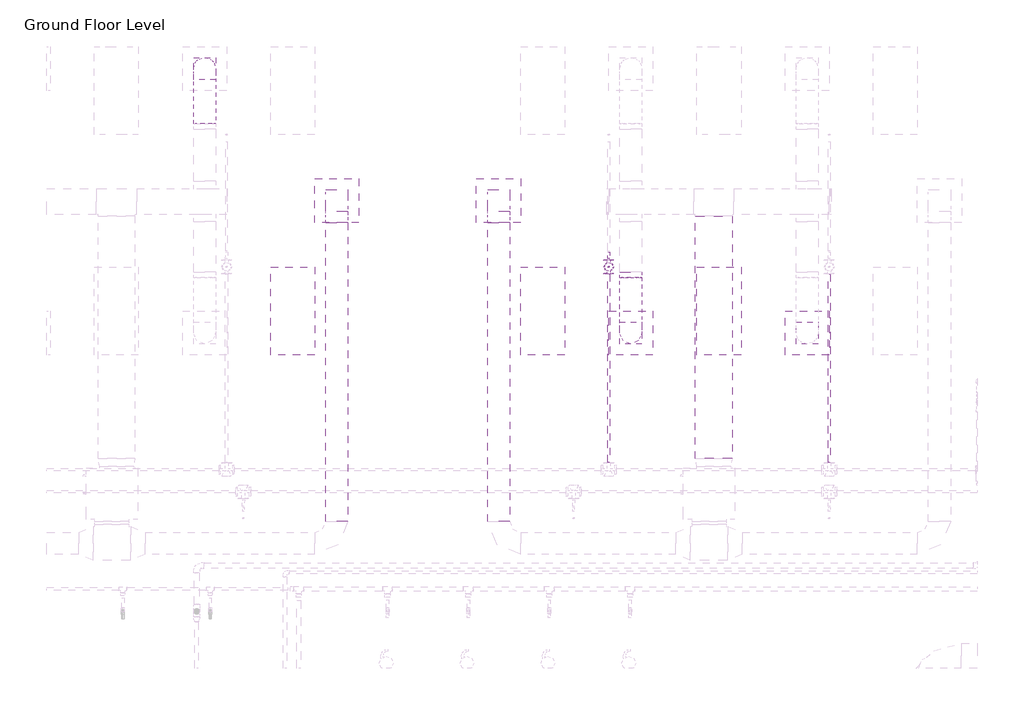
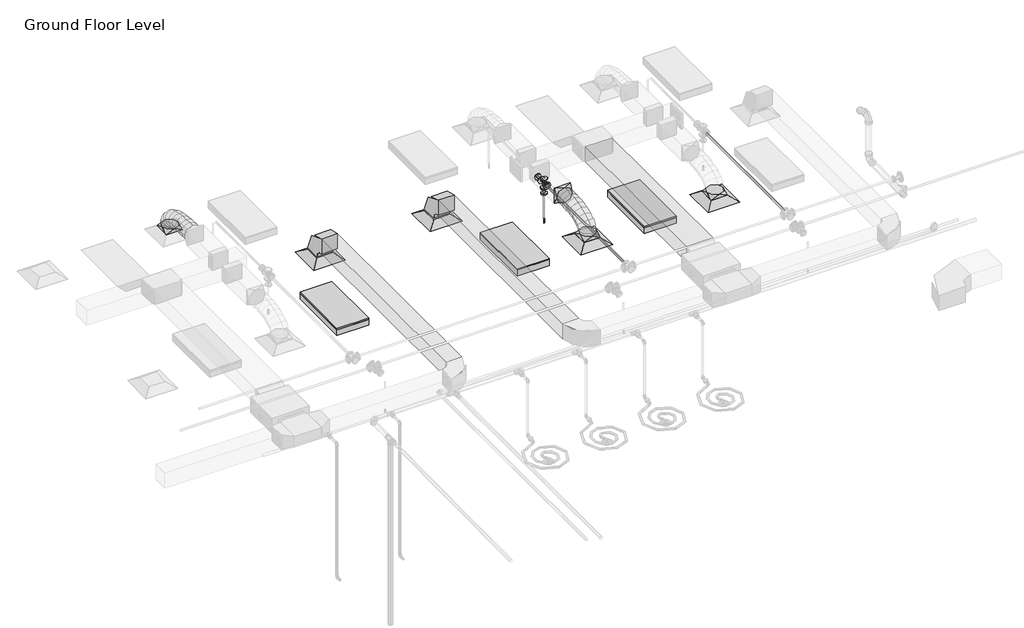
# One storey, part 54 of 68: 7 duct segments, 6 duct fittings, 4 air terminals, 3 light fixtures, 3 pipe fittings, 3 pipe segments, 1 fire suppression terminal.
"""IFC4 building model written with IfcOpenShell, lengths in millimetres."""

from ifc_helpers import new_model, si_unit, point, frame, frame_2d, origin, place, context, project, spatial, polyline, circle_curve, ellipse_curve, trimmed, segment, composite_curve, outline, extrude, transform, mapped, element, save
from ifc_brep_helpers import plane_surface, cylinder_surface, advanced_brep
from components import m_return_diffuser_600_x_600_face_300_x_300_connection_ff221211, m_rectangular_elbow_radius_1_w_618da153, m_rectangular_to_round_transition_angle_45_degree_641efff0, m_sprinkler_dry_pendent_hosted_15_mm_dry_pendent_9bda8e11, m_troffer_light_parabolic_rectangular1_0600x1200mm_4_lamp_86473d4a, m_reducer_flanged_cs_class_150_standard_d42b2106, m_tee_round_base_flanged_cs_class_150_standard_7e5987a1

model = new_model("IFC4")

# Units and contexts
model_context = context("Model", 3, world=origin())
ifc_project = project(units=[si_unit("LENGTHUNIT", "METRE", prefix="MILLI")], contexts=[model_context])

# Site, building, storey
site = spatial("IfcSite", under=ifc_project)
building = spatial("IfcBuilding", under=site)
storey = spatial("IfcBuildingStorey", under=building, Name="Ground Floor Level", Elevation=900.0)

# Air terminals
placement = place(None, origin())
m_return_diffuser_600_x_600_face_300_x_300_connection_shape = m_return_diffuser_600_x_600_face_300_x_300_connection_ff221211(model_context)
element("IfcAirTerminal", 1, ObjectType="M_Return Diffuser : 600 x 600 Face 300 x 300 Connection", at=placement, inside=storey, context=model_context, shape_type="MappedRepresentation", body=[
    mapped(m_return_diffuser_600_x_600_face_300_x_300_connection_shape, transform((-14937.2327605, 18735.2153534, 3650.0), x_axis=(1.0, 0.0, 0.0), y_axis=(0.0, 1.0, 0.0), z_axis=(0.0, 0.0, 1.0))),
])
element("IfcAirTerminal", 2, ObjectType="M_Return Diffuser : 600 x 600 Face 300 x 300 Connection", at=placement, inside=storey, context=model_context, shape_type="MappedRepresentation", body=[
    mapped(m_return_diffuser_600_x_600_face_300_x_300_connection_shape, transform((-12737.2327605, 18735.2153534, 3650.0), x_axis=(1.0, 0.0, 0.0), y_axis=(0.0, 1.0, 0.0), z_axis=(0.0, 0.0, 1.0))),
])
element("IfcAirTerminal", 3, ObjectType="M_Supply Diffuser : 600 x 600 Face 300 x 300 Connection", at=placement, inside=storey, context=model_context, shape_type="MappedRepresentation", body=[
    mapped(m_return_diffuser_600_x_600_face_300_x_300_connection_shape, transform((-10937.2327605, 16935.2153534, 3650.0), x_axis=(1.0, 0.0, 0.0), y_axis=(0.0, 1.0, 0.0), z_axis=(0.0, 0.0, 1.0))),
])
element("IfcAirTerminal", 4, ObjectType="M_Supply Diffuser : 600 x 600 Face 300 x 300 Connection", at=placement, inside=storey, context=model_context, shape_type="MappedRepresentation", body=[
    mapped(m_return_diffuser_600_x_600_face_300_x_300_connection_shape, transform((-8537.2327605, 16935.2153534, 3650.0), x_axis=(1.0, 0.0, 0.0), y_axis=(0.0, 1.0, 0.0), z_axis=(0.0, 0.0, 1.0))),
])

# Duct fittings
m_rectangular_elbow_radius_1_w_shape = m_rectangular_elbow_radius_1_w_618da153(model_context)
element("IfcDuctFitting", 5, ObjectType="M_Rectangular Elbow - Radius : 1 W", at=placement, inside=storey, context=model_context, shape_type="MappedRepresentation", body=[
    mapped(m_rectangular_elbow_radius_1_w_shape, transform((-14937.2327605, 18735.2153534, 4075.2881511), x_axis=(0.0, 0.0, 1.0), y_axis=(0.0, -1.0, 0.0), z_axis=(1.0, 0.0, 0.0))),
])
element("IfcDuctFitting", 6, ObjectType="M_Rectangular Elbow - Radius : 1 W", at=placement, inside=storey, context=model_context, shape_type="MappedRepresentation", body=[
    mapped(m_rectangular_elbow_radius_1_w_shape, transform((-12737.2327605, 18735.2153534, 4075.2872564), x_axis=(0.0, 0.0, 1.0), y_axis=(0.0, -1.0, 0.0), z_axis=(1.0, 0.0, 0.0))),
])
m_rectangular_to_round_transition_angle_45_degree_shape = m_rectangular_to_round_transition_angle_45_degree_641efff0(model_context)
element("IfcDuctFitting", 7, ObjectType="M_Rectangular to Round Transition - Angle : 45 Degree", at=placement, inside=storey, context=model_context, shape_type="MappedRepresentation", body=[
    mapped(m_rectangular_to_round_transition_angle_45_degree_shape, transform((-16737.2327605, 20535.2153534, 3751.6), x_axis=(0.0, 0.0, 1.0), y_axis=(-1.0, 0.0, 0.0), z_axis=(0.0, -1.0, 0.0))),
])
element("IfcDuctFitting", 8, ObjectType="M_Rectangular to Round Transition - Angle : 45 Degree", at=placement, inside=storey, context=model_context, shape_type="MappedRepresentation", body=[
    mapped(m_rectangular_to_round_transition_angle_45_degree_shape, transform((-10937.2327605, 16935.2153534, 3751.6), x_axis=(0.0, 0.0, 1.0), y_axis=(-1.0, 0.0, 0.0), z_axis=(0.0, -1.0, 0.0))),
])
element("IfcDuctFitting", 9, ObjectType="M_Rectangular to Round Transition - Angle : 45 Degree", at=placement, inside=storey, context=model_context, shape_type="MappedRepresentation", body=[
    mapped(m_rectangular_to_round_transition_angle_45_degree_shape, transform((-10937.2327605, 17762.5527048, 4099.9985799), x_axis=(0.0, -1.0, 0.0), y_axis=(1.0, 0.0, 0.0), z_axis=(0.0, 0.0, 1.0))),
])
element("IfcDuctFitting", 10, ObjectType="M_Rectangular to Round Transition - Angle : 45 Degree", at=placement, inside=storey, context=model_context, shape_type="MappedRepresentation", body=[
    mapped(m_rectangular_to_round_transition_angle_45_degree_shape, transform((-8537.2327605, 16935.2153534, 3751.6), x_axis=(0.0, 0.0, 1.0), y_axis=(-1.0, 0.0, 0.0), z_axis=(0.0, -1.0, 0.0))),
])

# Duct segments
element("IfcDuctSegment", 11, ObjectType="Flex - Round", at=placement, inside=storey, context=model_context, shape_type="AdvancedBrep", body=[
    advanced_brep(
    [(-16587.2327605, 20535.2153534, 3826.6), (-16737.2327605, 20385.2153534, 3826.6), (-16887.2327605, 20535.2153534, 3826.6), (-16737.2327605, 20685.2153534, 3826.6), (-16587.2327605, 20535.2153534, 3857.9377382), (-16737.2327605, 20385.2153534, 3832.2944832), (-16887.2327605, 20535.2153534, 3857.9377382), (-16737.2327605, 20685.2153534, 3883.5809933), (-16587.2327605, 20518.1994031, 3906.2505845), (-16737.2327605, 20384.4614644, 3834.4349763), (-16887.2327605, 20518.1994031, 3906.2505845), (-16737.2327605, 20651.9373419, 3978.0661927), (-16587.2327605, 20471.0154746, 3968.7112839), (-16737.2327605, 20366.8096846, 3857.8018842), (-16887.2327605, 20471.0154746, 3968.7112839), (-16737.2327605, 20575.2212646, 4079.6206836), (-16587.2327605, 20399.4594512, 4016.069955), (-16737.2327605, 20330.5255676, 3881.8161806), (-16887.2327605, 20399.4594512, 4016.069955), (-16737.2327605, 20468.3933347, 4150.3237294), (-16587.2327605, 20309.3272161, 4050.4144545), (-16737.2327605, 20265.7666411, 3906.4922903), (-16887.2327605, 20309.3272161, 4050.4144545), (-16737.2327605, 20352.8877912, 4194.3366186), (-16587.2327605, 20206.4146528, 4073.832639), (-16737.2327605, 20179.8539072, 3926.0420925), (-16887.2327605, 20206.4146528, 4073.832639), (-16737.2327605, 20232.9753985, 4221.6231855), (-16587.2327605, 20096.5176446, 4088.4123653), (-16737.2327605, 20081.3668973, 3939.1080865), (-16887.2327605, 20096.5176446, 4088.4123653), (-16737.2327605, 20111.668392, 4237.7166441), (-16587.2327605, 19985.4320749, 4096.2414901), (-16737.2327605, 19977.9268673, 3946.3983665), (-16887.2327605, 19985.4320749, 4096.2414901), (-16737.2327605, 19992.9372825, 4246.0846137), (-16587.2327605, 19878.9538269, 4099.4078701), (-16737.2327605, 19876.2624046, 3949.4215972), (-16887.2327605, 19878.9538269, 4099.4078701), (-16737.2327605, 19881.6452491, 4249.3941429), (-16587.2327605, 19782.878784, 4099.9993619), (-16737.2327605, 19783.8022506, 4249.9965192), (-16887.2327605, 19782.878784, 4099.9993619), (-16737.2327605, 19781.9553174, 3950.0022045)],
    [
        (0, 1, circle_curve(frame((-16737.2327605, 20535.2153534, 3826.6), z_axis=(0.0, 0.0, -1.0), x_axis=(1.0, 0.0, 0.0)), 150.0)),
        (1, 2, circle_curve(frame((-16737.2327605, 20535.2153534, 3826.6), z_axis=(0.0, 0.0, -1.0), x_axis=(1.0, 0.0, 0.0)), 150.0)),
        (2, 3, circle_curve(frame((-16737.2327605, 20535.2153534, 3826.6), z_axis=(0.0, 0.0, -1.0), x_axis=(1.0, 0.0, 0.0)), 150.0)),
        (3, 0, circle_curve(frame((-16737.2327605, 20535.2153534, 3826.6), z_axis=(0.0, 0.0, -1.0), x_axis=(1.0, 0.0, 0.0)), 150.0)),
        (0, 4),
        (4, 5, ellipse_curve(frame((-16737.2327605, 20535.2153534, 3857.9377382), z_axis=(0.0, 0.16851035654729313, -0.9856998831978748), x_axis=(0.0, -0.9856998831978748, -0.16851035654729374)), 152.1761365, 150.0)),
        (5, 1),
        (5, 6, ellipse_curve(frame((-16737.2327605, 20535.2153534, 3857.9377382), z_axis=(0.0, 0.16851035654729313, -0.9856998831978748), x_axis=(0.0, -0.9856998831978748, -0.16851035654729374)), 152.1761365, 150.0)),
        (6, 2),
        (6, 7, ellipse_curve(frame((-16737.2327605, 20535.2153534, 3857.9377382), z_axis=(0.0, 0.16851035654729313, -0.9856998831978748), x_axis=(0.0, -0.9856998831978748, -0.16851035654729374)), 152.1761365, 150.0)),
        (7, 3),
        (7, 4, ellipse_curve(frame((-16737.2327605, 20535.2153534, 3857.9377382), z_axis=(0.0, 0.16851035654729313, -0.9856998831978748), x_axis=(0.0, -0.9856998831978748, -0.16851035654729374)), 152.1761365, 150.0)),
        (4, 8),
        (8, 9, ellipse_curve(frame((-16737.2327605, 20518.1994031, 3906.2505845), z_axis=(0.0, 0.47309279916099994, -0.8810126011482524), x_axis=(0.0, -0.8810126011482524, -0.4730927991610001)), 151.8002564, 150.0)),
        (9, 5),
        (9, 10, ellipse_curve(frame((-16737.2327605, 20518.1994031, 3906.2505845), z_axis=(0.0, 0.47309279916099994, -0.8810126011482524), x_axis=(0.0, -0.8810126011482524, -0.4730927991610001)), 151.8002564, 150.0)),
        (10, 6),
        (10, 11, ellipse_curve(frame((-16737.2327605, 20518.1994031, 3906.2505845), z_axis=(0.0, 0.47309279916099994, -0.8810126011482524), x_axis=(0.0, -0.8810126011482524, -0.4730927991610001)), 151.8002564, 150.0)),
        (11, 7),
        (11, 8, ellipse_curve(frame((-16737.2327605, 20518.1994031, 3906.2505845), z_axis=(0.0, 0.47309279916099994, -0.8810126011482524), x_axis=(0.0, -0.8810126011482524, -0.4730927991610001)), 151.8002564, 150.0)),
        (8, 12),
        (12, 13, ellipse_curve(frame((-16737.2327605, 20471.0154746, 3968.7112839), z_axis=(0.0, 0.7287884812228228, -0.6847388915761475), x_axis=(0.0, -0.6847388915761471, -0.7287884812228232)), 152.1832501, 150.0)),
        (13, 9),
        (13, 14, ellipse_curve(frame((-16737.2327605, 20471.0154746, 3968.7112839), z_axis=(0.0, 0.7287884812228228, -0.6847388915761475), x_axis=(0.0, -0.6847388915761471, -0.7287884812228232)), 152.1832501, 150.0)),
        (14, 10),
        (14, 15, ellipse_curve(frame((-16737.2327605, 20471.0154746, 3968.7112839), z_axis=(0.0, 0.7287884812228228, -0.6847388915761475), x_axis=(0.0, -0.6847388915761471, -0.7287884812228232)), 152.1832501, 150.0)),
        (15, 11),
        (15, 12, ellipse_curve(frame((-16737.2327605, 20471.0154746, 3968.7112839), z_axis=(0.0, 0.7287884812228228, -0.6847388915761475), x_axis=(0.0, -0.6847388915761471, -0.7287884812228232)), 152.1832501, 150.0)),
        (12, 16),
        (16, 17, ellipse_curve(frame((-16737.2327605, 20399.4594512, 4016.069955), z_axis=(0.0, 0.8895865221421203, -0.4567667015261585), x_axis=(0.0, -0.45676670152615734, -0.8895865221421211)), 150.9170508, 150.0)),
        (17, 13),
        (17, 18, ellipse_curve(frame((-16737.2327605, 20399.4594512, 4016.069955), z_axis=(0.0, 0.8895865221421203, -0.4567667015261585), x_axis=(0.0, -0.45676670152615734, -0.8895865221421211)), 150.9170508, 150.0)),
        (18, 14),
        (18, 19, ellipse_curve(frame((-16737.2327605, 20399.4594512, 4016.069955), z_axis=(0.0, 0.8895865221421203, -0.4567667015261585), x_axis=(0.0, -0.45676670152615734, -0.8895865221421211)), 150.9170508, 150.0)),
        (19, 15),
        (19, 16, ellipse_curve(frame((-16737.2327605, 20399.4594512, 4016.069955), z_axis=(0.0, 0.8895865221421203, -0.4567667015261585), x_axis=(0.0, -0.45676670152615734, -0.8895865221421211)), 150.9170508, 150.0)),
        (16, 20),
        (20, 21, ellipse_curve(frame((-16737.2327605, 20309.3272161, 4050.4144545), z_axis=(0.0, 0.9571207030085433, -0.28968941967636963), x_axis=(0.0, -0.2896894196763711, -0.9571207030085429)), 150.3699206, 150.0)),
        (21, 17),
        (21, 22, ellipse_curve(frame((-16737.2327605, 20309.3272161, 4050.4144545), z_axis=(0.0, 0.9571207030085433, -0.28968941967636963), x_axis=(0.0, -0.2896894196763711, -0.9571207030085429)), 150.3699206, 150.0)),
        (22, 18),
        (22, 23, ellipse_curve(frame((-16737.2327605, 20309.3272161, 4050.4144545), z_axis=(0.0, 0.9571207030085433, -0.28968941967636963), x_axis=(0.0, -0.2896894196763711, -0.9571207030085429)), 150.3699206, 150.0)),
        (23, 19),
        (23, 20, ellipse_curve(frame((-16737.2327605, 20309.3272161, 4050.4144545), z_axis=(0.0, 0.9571207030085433, -0.28968941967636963), x_axis=(0.0, -0.2896894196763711, -0.9571207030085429)), 150.3699206, 150.0)),
        (20, 24),
        (24, 25, ellipse_curve(frame((-16737.2327605, 20206.4146528, 4073.832639), z_axis=(0.0, 0.9842315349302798, -0.17688495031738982), x_axis=(0.0, -0.1768849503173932, -0.9842315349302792)), 150.1583126, 150.0)),
        (25, 21),
        (25, 26, ellipse_curve(frame((-16737.2327605, 20206.4146528, 4073.832639), z_axis=(0.0, 0.9842315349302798, -0.17688495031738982), x_axis=(0.0, -0.1768849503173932, -0.9842315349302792)), 150.1583126, 150.0)),
        (26, 22),
        (26, 27, ellipse_curve(frame((-16737.2327605, 20206.4146528, 4073.832639), z_axis=(0.0, 0.9842315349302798, -0.17688495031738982), x_axis=(0.0, -0.1768849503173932, -0.9842315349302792)), 150.1583126, 150.0)),
        (27, 23),
        (27, 24, ellipse_curve(frame((-16737.2327605, 20206.4146528, 4073.832639), z_axis=(0.0, 0.9842315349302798, -0.17688495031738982), x_axis=(0.0, -0.1768849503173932, -0.9842315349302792)), 150.1583126, 150.0)),
        (24, 28),
        (28, 29, ellipse_curve(frame((-16737.2327605, 20096.5176446, 4088.4123653), z_axis=(0.0, 0.9948907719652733, -0.10095717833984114), x_axis=(0.0, -0.10095717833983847, -0.9948907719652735)), 150.0710259, 150.0)),
        (29, 25),
        (29, 30, ellipse_curve(frame((-16737.2327605, 20096.5176446, 4088.4123653), z_axis=(0.0, 0.9948907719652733, -0.10095717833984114), x_axis=(0.0, -0.10095717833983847, -0.9948907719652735)), 150.0710259, 150.0)),
        (30, 26),
        (30, 31, ellipse_curve(frame((-16737.2327605, 20096.5176446, 4088.4123653), z_axis=(0.0, 0.9948907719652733, -0.10095717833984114), x_axis=(0.0, -0.10095717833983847, -0.9948907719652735)), 150.0710259, 150.0)),
        (31, 27),
        (31, 28, ellipse_curve(frame((-16737.2327605, 20096.5176446, 4088.4123653), z_axis=(0.0, 0.9948907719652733, -0.10095717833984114), x_axis=(0.0, -0.10095717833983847, -0.9948907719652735)), 150.0710259, 150.0)),
        (28, 32),
        (32, 33, ellipse_curve(frame((-16737.2327605, 19985.4320749, 4096.2414901), z_axis=(0.0, 0.9987479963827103, -0.050024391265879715), x_axis=(0.0, -0.05002439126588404, -0.9987479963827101)), 150.0309629, 150.0)),
        (33, 29),
        (33, 34, ellipse_curve(frame((-16737.2327605, 19985.4320749, 4096.2414901), z_axis=(0.0, 0.9987479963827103, -0.050024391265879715), x_axis=(0.0, -0.05002439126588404, -0.9987479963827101)), 150.0309629, 150.0)),
        (34, 30),
        (34, 35, ellipse_curve(frame((-16737.2327605, 19985.4320749, 4096.2414901), z_axis=(0.0, 0.9987479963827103, -0.050024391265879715), x_axis=(0.0, -0.05002439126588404, -0.9987479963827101)), 150.0309629, 150.0)),
        (35, 31),
        (35, 32, ellipse_curve(frame((-16737.2327605, 19985.4320749, 4096.2414901), z_axis=(0.0, 0.9987479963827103, -0.050024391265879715), x_axis=(0.0, -0.05002439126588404, -0.9987479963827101)), 150.0309629, 150.0)),
        (32, 36),
        (36, 37, ellipse_curve(frame((-16737.2327605, 19878.9538269, 4099.4078701), z_axis=(0.0, 0.9998390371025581, -0.01794156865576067), x_axis=(0.0, -0.017941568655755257, -0.9998390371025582)), 150.0104189, 150.0)),
        (37, 33),
        (37, 38, ellipse_curve(frame((-16737.2327605, 19878.9538269, 4099.4078701), z_axis=(0.0, 0.9998390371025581, -0.01794156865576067), x_axis=(0.0, -0.017941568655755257, -0.9998390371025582)), 150.0104189, 150.0)),
        (38, 34),
        (38, 39, ellipse_curve(frame((-16737.2327605, 19878.9538269, 4099.4078701), z_axis=(0.0, 0.9998390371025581, -0.01794156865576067), x_axis=(0.0, -0.017941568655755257, -0.9998390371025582)), 150.0104189, 150.0)),
        (39, 35),
        (39, 36, ellipse_curve(frame((-16737.2327605, 19878.9538269, 4099.4078701), z_axis=(0.0, 0.9998390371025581, -0.01794156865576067), x_axis=(0.0, -0.017941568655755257, -0.9998390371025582)), 150.0104189, 150.0)),
        (40, 41, circle_curve(frame((-16737.2327605, 19782.878784, 4099.9993619), z_axis=(0.0, -0.9999810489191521, 0.0061564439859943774), x_axis=(1.0, 0.0, 0.0)), 150.0)),
        (41, 42, circle_curve(frame((-16737.2327605, 19782.878784, 4099.9993619), z_axis=(0.0, -0.9999810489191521, 0.0061564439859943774), x_axis=(1.0, 0.0, 0.0)), 150.0)),
        (42, 43, circle_curve(frame((-16737.2327605, 19782.878784, 4099.9993619), z_axis=(0.0, -0.9999810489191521, 0.0061564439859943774), x_axis=(1.0, 0.0, 0.0)), 150.0)),
        (43, 40, circle_curve(frame((-16737.2327605, 19782.878784, 4099.9993619), z_axis=(0.0, -0.9999810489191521, 0.0061564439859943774), x_axis=(1.0, 0.0, 0.0)), 150.0)),
        (36, 40),
        (43, 37),
        (42, 38),
        (41, 39),
    ],
    [
        plane_surface(frame((-16737.2327605, 20385.2153534, 3826.6), z_axis=(0.0, 0.0, -1.0), x_axis=(1.0, 0.0, 0.0))),
        cylinder_surface(frame((-16737.2327605, 20535.2153534, 3826.6), z_axis=(0.0, 0.0, -1.0), x_axis=(1.0, 0.0, 0.0)), 150.0),
        cylinder_surface(frame((-16737.2327605, 20535.2153534, 3857.9377382), z_axis=(0.0, 0.33220127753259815, -0.9432085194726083), x_axis=(1.0, 0.0, 0.0)), 150.0),
        cylinder_surface(frame((-16737.2327605, 20518.1994031, 3906.2505845), z_axis=(0.0, 0.6027631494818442, -0.79792016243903), x_axis=(1.0, 0.0, 0.0)), 150.0),
        cylinder_surface(frame((-16737.2327605, 20471.0154746, 3968.7112839), z_axis=(0.0, 0.833903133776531, -0.5519108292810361), x_axis=(1.0, 0.0, 0.0)), 150.0),
        cylinder_surface(frame((-16737.2327605, 20399.4594512, 4016.069955), z_axis=(0.0, 0.9344587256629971, -0.3560714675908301), x_axis=(1.0, 0.0, 0.0)), 150.0),
        cylinder_surface(frame((-16737.2327605, 20309.3272161, 4050.4144545), z_axis=(0.0, 0.9750735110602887, -0.22188205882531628), x_axis=(1.0, 0.0, 0.0)), 150.0),
        cylinder_surface(frame((-16737.2327605, 20206.4146528, 4073.832639), z_axis=(0.0, 0.9913141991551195, -0.13151486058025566), x_axis=(1.0, 0.0, 0.0)), 150.0),
        cylinder_surface(frame((-16737.2327605, 20096.5176446, 4088.4123653), z_axis=(0.0, 0.997525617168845, -0.07030393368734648), x_axis=(1.0, 0.0, 0.0)), 150.0),
        cylinder_surface(frame((-16737.2327605, 19985.4320749, 4096.2414901), z_axis=(0.0, 0.9995581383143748, -0.029724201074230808), x_axis=(1.0, 0.0, 0.0)), 150.0),
        plane_surface(frame((-16737.2327605, 19781.9553174, 3950.0022045), z_axis=(0.0, -0.999981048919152, 0.0061564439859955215), x_axis=(1.0, 0.0, 0.0))),
        cylinder_surface(frame((-16737.2327605, 19878.9538269, 4099.4078701), z_axis=(0.0, 0.9999810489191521, -0.0061564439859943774), x_axis=(1.0, 0.0, 0.0)), 150.0),
    ],
    [
        (0, [[1, 2, 3, 4]]),
        (1, [[-1, 5, 6, 7]]),
        (1, [[-2, -7, 8, 9]]),
        (1, [[-3, -9, 10, 11]]),
        (1, [[-4, -11, 12, -5]]),
        (2, [[-6, 13, 14, 15]]),
        (2, [[-8, -15, 16, 17]]),
        (2, [[-10, -17, 18, 19]]),
        (2, [[-12, -19, 20, -13]]),
        (3, [[-14, 21, 22, 23]]),
        (3, [[-16, -23, 24, 25]]),
        (3, [[-18, -25, 26, 27]]),
        (3, [[-20, -27, 28, -21]]),
        (4, [[-22, 29, 30, 31]]),
        (4, [[-24, -31, 32, 33]]),
        (4, [[-26, -33, 34, 35]]),
        (4, [[-28, -35, 36, -29]]),
        (5, [[-30, 37, 38, 39]]),
        (5, [[-32, -39, 40, 41]]),
        (5, [[-34, -41, 42, 43]]),
        (5, [[-36, -43, 44, -37]]),
        (6, [[-38, 45, 46, 47]]),
        (6, [[-40, -47, 48, 49]]),
        (6, [[-42, -49, 50, 51]]),
        (6, [[-44, -51, 52, -45]]),
        (7, [[-46, 53, 54, 55]]),
        (7, [[-48, -55, 56, 57]]),
        (7, [[-50, -57, 58, 59]]),
        (7, [[-52, -59, 60, -53]]),
        (8, [[-54, 61, 62, 63]]),
        (8, [[-56, -63, 64, 65]]),
        (8, [[-58, -65, 66, 67]]),
        (8, [[-60, -67, 68, -61]]),
        (9, [[-62, 69, 70, 71]]),
        (9, [[-64, -71, 72, 73]]),
        (9, [[-66, -73, 74, 75]]),
        (9, [[-68, -75, 76, -69]]),
        (10, [[77, 78, 79, 80]]),
        (11, [[-70, 81, -80, 82]]),
        (11, [[-72, -82, -79, 83]]),
        (11, [[-74, -83, -78, 84]]),
        (11, [[-76, -84, -77, -81]]),
    ],
),
])
element("IfcDuctSegment", 12, ObjectType="Flex - Round", at=placement, inside=storey, context=model_context, shape_type="AdvancedBrep", body=[
    advanced_brep(
    [(-10787.2327605, 16935.2153534, 3826.6), (-10937.2327605, 16785.2153534, 3826.6), (-11087.2327605, 16935.2153534, 3826.6), (-10937.2327605, 17085.2153534, 3826.6), (-10787.2327605, 16935.2153534, 3857.9377711), (-10937.2327605, 16785.2153534, 3883.5810662), (-11087.2327605, 16935.2153534, 3857.9377711), (-10937.2327605, 17085.2153534, 3832.2944759), (-10787.2327605, 16952.2313253, 3906.2505987), (-10937.2327605, 16818.4934358, 3978.0663103), (-11087.2327605, 16952.2313253, 3906.2505987), (-10937.2327605, 17085.9692148, 3834.4348871), (-10787.2327605, 16999.4153129, 3968.7112481), (-10937.2327605, 16895.2096567, 4079.620783), (-11087.2327605, 16999.4153129, 3968.7112481), (-10937.2327605, 17103.620969, 3857.8017132), (-10787.2327605, 17070.9714237, 4016.0698216), (-10937.2327605, 17002.0377511, 4150.3237055), (-11087.2327605, 17070.9714237, 4016.0698216), (-10937.2327605, 17139.9050963, 3881.8159377), (-10787.2327605, 17161.1037654, 4050.4141926), (-10937.2327605, 17117.5434209, 4194.3364261), (-11087.2327605, 17161.1037654, 4050.4141926), (-10937.2327605, 17204.6641099, 3906.491959), (-10787.2327605, 17264.0164456, 4073.8322345), (-10937.2327605, 17237.4559185, 4221.6228196), (-11087.2327605, 17264.0164456, 4073.8322345), (-10937.2327605, 17290.5769728, 3926.0416493), (-10787.2327605, 17373.9135721, 4088.4118207), (-10937.2327605, 17358.7630147, 4237.7161183), (-11087.2327605, 17373.9135721, 4088.4118207), (-10937.2327605, 17389.0641294, 3939.1075232), (-10787.2327605, 17484.9992523, 4096.2408248), (-10937.2327605, 17477.4941925, 4246.0839553), (-11087.2327605, 17484.9992523, 4096.2408248), (-10937.2327605, 17492.5043121, 3946.3976942), (-10787.2327605, 17591.477594, 4099.40712), (-10937.2327605, 17588.7862586, 4249.393394), (-11087.2327605, 17591.477594, 4099.40712), (-10937.2327605, 17594.1689294, 3949.4208461), (-10787.2327605, 17687.5527048, 4099.9985799), (-10937.2327605, 17688.4761208, 3950.0014223), (-11087.2327605, 17687.5527048, 4099.9985799), (-10937.2327605, 17686.6292887, 4249.9957376)],
    [
        (0, 1, circle_curve(frame((-10937.2327605, 16935.2153534, 3826.6), z_axis=(0.0, 0.0, -1.0), x_axis=(1.0, 0.0, 0.0)), 150.0)),
        (1, 2, circle_curve(frame((-10937.2327605, 16935.2153534, 3826.6), z_axis=(0.0, 0.0, -1.0), x_axis=(1.0, 0.0, 0.0)), 150.0)),
        (2, 3, circle_curve(frame((-10937.2327605, 16935.2153534, 3826.6), z_axis=(0.0, 0.0, -1.0), x_axis=(1.0, 0.0, 0.0)), 150.0)),
        (3, 0, circle_curve(frame((-10937.2327605, 16935.2153534, 3826.6), z_axis=(0.0, 0.0, -1.0), x_axis=(1.0, 0.0, 0.0)), 150.0)),
        (0, 4),
        (4, 5, ellipse_curve(frame((-10937.2327605, 16935.2153534, 3857.9377711), z_axis=(0.0, -0.1685106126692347, -0.9856998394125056), x_axis=(0.0, 0.9856998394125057, -0.16851061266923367)), 152.1761433, 150.0)),
        (5, 1),
        (5, 6, ellipse_curve(frame((-10937.2327605, 16935.2153534, 3857.9377711), z_axis=(0.0, -0.1685106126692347, -0.9856998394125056), x_axis=(0.0, 0.9856998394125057, -0.16851061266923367)), 152.1761433, 150.0)),
        (6, 2),
        (6, 7, ellipse_curve(frame((-10937.2327605, 16935.2153534, 3857.9377711), z_axis=(0.0, -0.1685106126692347, -0.9856998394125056), x_axis=(0.0, 0.9856998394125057, -0.16851061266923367)), 152.1761433, 150.0)),
        (7, 3),
        (7, 4, ellipse_curve(frame((-10937.2327605, 16935.2153534, 3857.9377711), z_axis=(0.0, -0.1685106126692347, -0.9856998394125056), x_axis=(0.0, 0.9856998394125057, -0.16851061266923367)), 152.1761433, 150.0)),
        (4, 8),
        (8, 9, ellipse_curve(frame((-10937.2327605, 16952.2313253, 3906.2505987), z_axis=(0.0, -0.4730934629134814, -0.8810122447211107), x_axis=(0.0, 0.8810122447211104, -0.473093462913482)), 151.8002619, 150.0)),
        (9, 5),
        (9, 10, ellipse_curve(frame((-10937.2327605, 16952.2313253, 3906.2505987), z_axis=(0.0, -0.4730934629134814, -0.8810122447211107), x_axis=(0.0, 0.8810122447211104, -0.473093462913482)), 151.8002619, 150.0)),
        (10, 6),
        (10, 11, ellipse_curve(frame((-10937.2327605, 16952.2313253, 3906.2505987), z_axis=(0.0, -0.4730934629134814, -0.8810122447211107), x_axis=(0.0, 0.8810122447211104, -0.473093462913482)), 151.8002619, 150.0)),
        (11, 7),
        (11, 8, ellipse_curve(frame((-10937.2327605, 16952.2313253, 3906.2505987), z_axis=(0.0, -0.4730934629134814, -0.8810122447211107), x_axis=(0.0, 0.8810122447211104, -0.473093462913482)), 151.8002619, 150.0)),
        (8, 12),
        (12, 13, ellipse_curve(frame((-10937.2327605, 16999.4153129, 3968.7112481), z_axis=(0.0, -0.728789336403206, -0.6847379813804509), x_axis=(0.0, 0.6847379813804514, -0.7287893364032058)), 152.183257, 150.0)),
        (13, 9),
        (13, 14, ellipse_curve(frame((-10937.2327605, 16999.4153129, 3968.7112481), z_axis=(0.0, -0.728789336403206, -0.6847379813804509), x_axis=(0.0, 0.6847379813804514, -0.7287893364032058)), 152.183257, 150.0)),
        (14, 10),
        (14, 15, ellipse_curve(frame((-10937.2327605, 16999.4153129, 3968.7112481), z_axis=(0.0, -0.728789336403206, -0.6847379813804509), x_axis=(0.0, 0.6847379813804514, -0.7287893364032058)), 152.183257, 150.0)),
        (15, 11),
        (15, 12, ellipse_curve(frame((-10937.2327605, 16999.4153129, 3968.7112481), z_axis=(0.0, -0.728789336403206, -0.6847379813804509), x_axis=(0.0, 0.6847379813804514, -0.7287893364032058)), 152.183257, 150.0)),
        (12, 16),
        (16, 17, ellipse_curve(frame((-10937.2327605, 17070.9714237, 4016.0698216), z_axis=(0.0, -0.8895872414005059, -0.45676530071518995), x_axis=(0.0, 0.4567653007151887, -0.8895872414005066)), 150.9170519, 150.0)),
        (17, 13),
        (17, 18, ellipse_curve(frame((-10937.2327605, 17070.9714237, 4016.0698216), z_axis=(0.0, -0.8895872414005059, -0.45676530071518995), x_axis=(0.0, 0.4567653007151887, -0.8895872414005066)), 150.9170519, 150.0)),
        (18, 14),
        (18, 19, ellipse_curve(frame((-10937.2327605, 17070.9714237, 4016.0698216), z_axis=(0.0, -0.8895872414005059, -0.45676530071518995), x_axis=(0.0, 0.4567653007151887, -0.8895872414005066)), 150.9170519, 150.0)),
        (19, 15),
        (19, 16, ellipse_curve(frame((-10937.2327605, 17070.9714237, 4016.0698216), z_axis=(0.0, -0.8895872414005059, -0.45676530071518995), x_axis=(0.0, 0.4567653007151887, -0.8895872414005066)), 150.9170519, 150.0)),
        (16, 20),
        (20, 21, ellipse_curve(frame((-10937.2327605, 17161.1037654, 4050.4141926), z_axis=(0.0, -0.9571211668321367, -0.28968788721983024), x_axis=(0.0, 0.2896878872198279, -0.9571211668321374)), 150.3699202, 150.0)),
        (21, 17),
        (21, 22, ellipse_curve(frame((-10937.2327605, 17161.1037654, 4050.4141926), z_axis=(0.0, -0.9571211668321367, -0.28968788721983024), x_axis=(0.0, 0.2896878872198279, -0.9571211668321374)), 150.3699202, 150.0)),
        (22, 18),
        (22, 23, ellipse_curve(frame((-10937.2327605, 17161.1037654, 4050.4141926), z_axis=(0.0, -0.9571211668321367, -0.28968788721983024), x_axis=(0.0, 0.2896878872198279, -0.9571211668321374)), 150.3699202, 150.0)),
        (23, 19),
        (23, 20, ellipse_curve(frame((-10937.2327605, 17161.1037654, 4050.4141926), z_axis=(0.0, -0.9571211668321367, -0.28968788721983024), x_axis=(0.0, 0.2896878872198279, -0.9571211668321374)), 150.3699202, 150.0)),
        (20, 24),
        (24, 25, ellipse_curve(frame((-10937.2327605, 17264.0164456, 4073.8322345), z_axis=(0.0, -0.9842317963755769, -0.17688349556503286), x_axis=(0.0, 0.17688349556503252, -0.9842317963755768)), 150.158312, 150.0)),
        (25, 21),
        (25, 26, ellipse_curve(frame((-10937.2327605, 17264.0164456, 4073.8322345), z_axis=(0.0, -0.9842317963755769, -0.17688349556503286), x_axis=(0.0, 0.17688349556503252, -0.9842317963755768)), 150.158312, 150.0)),
        (26, 22),
        (26, 27, ellipse_curve(frame((-10937.2327605, 17264.0164456, 4073.8322345), z_axis=(0.0, -0.9842317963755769, -0.17688349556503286), x_axis=(0.0, 0.17688349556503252, -0.9842317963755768)), 150.158312, 150.0)),
        (27, 23),
        (27, 24, ellipse_curve(frame((-10937.2327605, 17264.0164456, 4073.8322345), z_axis=(0.0, -0.9842317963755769, -0.17688349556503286), x_axis=(0.0, 0.17688349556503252, -0.9842317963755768)), 150.158312, 150.0)),
        (24, 28),
        (28, 29, ellipse_curve(frame((-10937.2327605, 17373.9135721, 4088.4118207), z_axis=(0.0, -0.9948909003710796, -0.10095591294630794), x_axis=(0.0, 0.10095591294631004, -0.9948909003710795)), 150.0710253, 150.0)),
        (29, 25),
        (29, 30, ellipse_curve(frame((-10937.2327605, 17373.9135721, 4088.4118207), z_axis=(0.0, -0.9948909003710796, -0.10095591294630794), x_axis=(0.0, 0.10095591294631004, -0.9948909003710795)), 150.0710253, 150.0)),
        (30, 26),
        (30, 31, ellipse_curve(frame((-10937.2327605, 17373.9135721, 4088.4118207), z_axis=(0.0, -0.9948909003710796, -0.10095591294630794), x_axis=(0.0, 0.10095591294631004, -0.9948909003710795)), 150.0710253, 150.0)),
        (31, 27),
        (31, 28, ellipse_curve(frame((-10937.2327605, 17373.9135721, 4088.4118207), z_axis=(0.0, -0.9948909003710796, -0.10095591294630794), x_axis=(0.0, 0.10095591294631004, -0.9948909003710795)), 150.0710253, 150.0)),
        (28, 32),
        (32, 33, ellipse_curve(frame((-10937.2327605, 17484.9992523, 4096.2408248), z_axis=(0.0, -0.998748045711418, -0.0500234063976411), x_axis=(0.0, 0.050023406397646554, -0.9987480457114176)), 150.0309624, 150.0)),
        (33, 29),
        (33, 34, ellipse_curve(frame((-10937.2327605, 17484.9992523, 4096.2408248), z_axis=(0.0, -0.998748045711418, -0.0500234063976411), x_axis=(0.0, 0.050023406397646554, -0.9987480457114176)), 150.0309624, 150.0)),
        (34, 30),
        (34, 35, ellipse_curve(frame((-10937.2327605, 17484.9992523, 4096.2408248), z_axis=(0.0, -0.998748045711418, -0.0500234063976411), x_axis=(0.0, 0.050023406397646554, -0.9987480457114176)), 150.0309624, 150.0)),
        (35, 31),
        (35, 32, ellipse_curve(frame((-10937.2327605, 17484.9992523, 4096.2408248), z_axis=(0.0, -0.998748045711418, -0.0500234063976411), x_axis=(0.0, 0.050023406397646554, -0.9987480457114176)), 150.0309624, 150.0)),
        (32, 36),
        (36, 37, ellipse_curve(frame((-10937.2327605, 17591.477594, 4099.40712), z_axis=(0.0, -0.9998390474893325, -0.01794098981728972), x_axis=(0.0, 0.017940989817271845, -0.9998390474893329)), 150.0104185, 150.0)),
        (37, 33),
        (37, 38, ellipse_curve(frame((-10937.2327605, 17591.477594, 4099.40712), z_axis=(0.0, -0.9998390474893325, -0.01794098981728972), x_axis=(0.0, 0.017940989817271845, -0.9998390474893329)), 150.0104185, 150.0)),
        (38, 34),
        (38, 39, ellipse_curve(frame((-10937.2327605, 17591.477594, 4099.40712), z_axis=(0.0, -0.9998390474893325, -0.01794098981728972), x_axis=(0.0, 0.017940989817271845, -0.9998390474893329)), 150.0104185, 150.0)),
        (39, 35),
        (39, 36, ellipse_curve(frame((-10937.2327605, 17591.477594, 4099.40712), z_axis=(0.0, -0.9998390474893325, -0.01794098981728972), x_axis=(0.0, 0.017940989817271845, -0.9998390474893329)), 150.0104185, 150.0)),
        (40, 41, circle_curve(frame((-10937.2327605, 17687.5527048, 4099.9985799), z_axis=(0.0, 0.9999810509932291, 0.00615610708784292), x_axis=(1.0, 0.0, 0.0)), 150.0)),
        (41, 42, circle_curve(frame((-10937.2327605, 17687.5527048, 4099.9985799), z_axis=(0.0, 0.9999810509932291, 0.00615610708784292), x_axis=(1.0, 0.0, 0.0)), 150.0)),
        (42, 43, circle_curve(frame((-10937.2327605, 17687.5527048, 4099.9985799), z_axis=(0.0, 0.9999810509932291, 0.00615610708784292), x_axis=(1.0, 0.0, 0.0)), 150.0)),
        (43, 40, circle_curve(frame((-10937.2327605, 17687.5527048, 4099.9985799), z_axis=(0.0, 0.9999810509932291, 0.00615610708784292), x_axis=(1.0, 0.0, 0.0)), 150.0)),
        (36, 40),
        (43, 37),
        (42, 38),
        (41, 39),
    ],
    [
        plane_surface(frame((-10937.2327605, 16785.2153534, 3826.6), z_axis=(0.0, 0.0, -1.0), x_axis=(1.0, 0.0, 0.0))),
        cylinder_surface(frame((-10937.2327605, 16935.2153534, 3826.6), z_axis=(0.0, 0.0, -1.0), x_axis=(1.0, 0.0, 0.0)), 150.0),
        cylinder_surface(frame((-10937.2327605, 16935.2153534, 3857.9377711), z_axis=(0.0, -0.3322017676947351, -0.9432083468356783), x_axis=(1.0, 0.0, 0.0)), 150.0),
        cylinder_surface(frame((-10937.2327605, 16952.2313253, 3906.2505987), z_axis=(0.0, -0.6027639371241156, -0.7979195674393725), x_axis=(1.0, 0.0, 0.0)), 150.0),
        cylinder_surface(frame((-10937.2327605, 16999.4153129, 3968.7112481), z_axis=(0.0, -0.8339039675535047, -0.551909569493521), x_axis=(1.0, 0.0, 0.0)), 150.0),
        cylinder_surface(frame((-10937.2327605, 17070.9714237, 4016.0698216), z_axis=(0.0, -0.9344593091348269, -0.3560699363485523), x_axis=(1.0, 0.0, 0.0)), 150.0),
        cylinder_surface(frame((-10937.2327605, 17161.1037654, 4050.4141926), z_axis=(0.0, -0.9750738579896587, -0.22188053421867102), x_axis=(1.0, 0.0, 0.0)), 150.0),
        cylinder_surface(frame((-10937.2327605, 17264.0164456, 4073.8322345), z_axis=(0.0, -0.9913143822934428, -0.13151348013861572), x_axis=(1.0, 0.0, 0.0)), 150.0),
        cylinder_surface(frame((-10937.2327605, 17373.9135721, 4088.4118207), z_axis=(0.0, -0.9975256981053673, -0.0703027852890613), x_axis=(1.0, 0.0, 0.0)), 150.0),
        cylinder_surface(frame((-10937.2327605, 17484.9992523, 4096.2408248), z_axis=(0.0, -0.9995581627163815, -0.029723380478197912), x_axis=(1.0, 0.0, 0.0)), 150.0),
        plane_surface(frame((-10937.2327605, 17686.6292887, 4249.9957376), z_axis=(0.0, 0.9999810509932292, 0.006156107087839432), x_axis=(1.0, 0.0, 0.0))),
        cylinder_surface(frame((-10937.2327605, 17591.477594, 4099.40712), z_axis=(0.0, -0.9999810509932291, -0.00615610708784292), x_axis=(1.0, 0.0, 0.0)), 150.0),
    ],
    [
        (0, [[1, 2, 3, 4]]),
        (1, [[-1, 5, 6, 7]]),
        (1, [[-2, -7, 8, 9]]),
        (1, [[-3, -9, 10, 11]]),
        (1, [[-4, -11, 12, -5]]),
        (2, [[-6, 13, 14, 15]]),
        (2, [[-8, -15, 16, 17]]),
        (2, [[-10, -17, 18, 19]]),
        (2, [[-12, -19, 20, -13]]),
        (3, [[-14, 21, 22, 23]]),
        (3, [[-16, -23, 24, 25]]),
        (3, [[-18, -25, 26, 27]]),
        (3, [[-20, -27, 28, -21]]),
        (4, [[-22, 29, 30, 31]]),
        (4, [[-24, -31, 32, 33]]),
        (4, [[-26, -33, 34, 35]]),
        (4, [[-28, -35, 36, -29]]),
        (5, [[-30, 37, 38, 39]]),
        (5, [[-32, -39, 40, 41]]),
        (5, [[-34, -41, 42, 43]]),
        (5, [[-36, -43, 44, -37]]),
        (6, [[-38, 45, 46, 47]]),
        (6, [[-40, -47, 48, 49]]),
        (6, [[-42, -49, 50, 51]]),
        (6, [[-44, -51, 52, -45]]),
        (7, [[-46, 53, 54, 55]]),
        (7, [[-48, -55, 56, 57]]),
        (7, [[-50, -57, 58, 59]]),
        (7, [[-52, -59, 60, -53]]),
        (8, [[-54, 61, 62, 63]]),
        (8, [[-56, -63, 64, 65]]),
        (8, [[-58, -65, 66, 67]]),
        (8, [[-60, -67, 68, -61]]),
        (9, [[-62, 69, 70, 71]]),
        (9, [[-64, -71, 72, 73]]),
        (9, [[-66, -73, 74, 75]]),
        (9, [[-68, -75, 76, -69]]),
        (10, [[77, 78, 79, 80]]),
        (11, [[-70, 81, -80, 82]]),
        (11, [[-72, -82, -79, 83]]),
        (11, [[-74, -83, -78, 84]]),
        (11, [[-76, -84, -77, -81]]),
    ],
),
])
element("IfcDuctSegment", 13, ObjectType="Radius Elbows / Taps", at=placement, inside=storey, context=model_context, shape_type="SweptSolid", body=[
    extrude(outline(polyline([(-9558.7327605, 15224.0945822), (-10058.7327605, 15224.0945822), (-10058.7327605, 18524.6783949), (-9558.7327605, 18524.6783949), (-9558.7327605, 15224.0945822)])), frame((0.0, 0.0, 3950.0), z_axis=(0.0, 0.0, 1.0), x_axis=(1.0, 0.0, 0.0)), (0.0, 0.0, 1.0), 300.0),
])
element("IfcDuctSegment", 14, ObjectType="Radius Elbows / Taps", at=placement, inside=storey, context=model_context, shape_type="SweptSolid", body=[
    extrude(outline(polyline([(-14787.2327605, 14369.8153534), (-15087.2327605, 14369.8153534), (-15087.2327605, 18435.2153534), (-14787.2327605, 18435.2153534), (-14787.2327605, 14369.8153534)])), frame((0.0, 0.0, 3925.2881511), z_axis=(0.0, 0.0, 1.0), x_axis=(1.0, 0.0, 0.0)), (0.0, 0.0, 1.0), 300.0),
])
element("IfcDuctSegment", 15, ObjectType="Radius Elbows / Taps", at=placement, inside=storey, context=model_context, shape_type="SweptSolid", body=[
    extrude(outline(polyline([(-14787.2327605, 18585.2153534), (-15087.2327605, 18585.2153534), (-15087.2327605, 18885.2153534), (-14787.2327605, 18885.2153534), (-14787.2327605, 18585.2153534)])), frame((0.0, 0.0, 3751.6), z_axis=(0.0, 0.0, 1.0), x_axis=(1.0, 0.0, 0.0)), (0.0, 0.0, 1.0), 23.6881511),
])
element("IfcDuctSegment", 16, ObjectType="Radius Elbows / Taps", at=placement, inside=storey, context=model_context, shape_type="SweptSolid", body=[
    extrude(outline(polyline([(-12587.2327605, 14369.8153534), (-12887.2327605, 14369.8153534), (-12887.2327605, 18435.2153534), (-12587.2327605, 18435.2153534), (-12587.2327605, 14369.8153534)])), frame((0.0, 0.0, 3925.2872564), z_axis=(0.0, 0.0, 1.0), x_axis=(1.0, 0.0, 0.0)), (0.0, 0.0, 1.0), 300.0),
])
element("IfcDuctSegment", 17, ObjectType="Radius Elbows / Taps", at=placement, inside=storey, context=model_context, shape_type="SweptSolid", body=[
    extrude(outline(polyline([(-12587.2327605, 18585.2153534), (-12887.2327605, 18585.2153534), (-12887.2327605, 18885.2153534), (-12587.2327605, 18885.2153534), (-12587.2327605, 18585.2153534)])), frame((0.0, 0.0, 3751.6), z_axis=(0.0, 0.0, 1.0), x_axis=(1.0, 0.0, 0.0)), (0.0, 0.0, 1.0), 23.6872564),
])

# Fire suppression terminal
m_sprinkler_dry_pendent_hosted_15_mm_dry_pendent_shape = m_sprinkler_dry_pendent_hosted_15_mm_dry_pendent_9bda8e11(model_context)
element("IfcFireSuppressionTerminal", 18, ObjectType="M_Sprinkler - Dry - Pendent - Hosted : 15 mm Dry Pendent", at=placement, inside=storey, context=model_context, shape_type="MappedRepresentation", body=[
    mapped(m_sprinkler_dry_pendent_hosted_15_mm_dry_pendent_shape, transform((-11237.2327605, 17835.2153534, 3650.0), x_axis=(1.0, 0.0, 0.0), y_axis=(0.0, -1.0, 0.0), z_axis=(0.0, 0.0, -1.0))),
])

# Light fixtures
m_troffer_light_parabolic_rectangular1_0600x1200mm_4_lamp_shape = m_troffer_light_parabolic_rectangular1_0600x1200mm_4_lamp_86473d4a(model_context)
element("IfcLightFixture", 19, ObjectType="M_Troffer Light - Parabolic Rectangular1 : 0600x1200mm(4 Lamp) - 277V 2", at=placement, inside=storey, context=model_context, shape_type="MappedRepresentation", body=[
    mapped(m_troffer_light_parabolic_rectangular1_0600x1200mm_4_lamp_shape, transform((-15596.6986926, 17253.918855, 3650.0), x_axis=(0.0, 1.0, 0.0), y_axis=(-1.0, 0.0, 0.0), z_axis=(0.0, 0.0, 1.0))),
])
element("IfcLightFixture", 20, ObjectType="M_Troffer Light - Parabolic Rectangular1 : 0600x1200mm(4 Lamp) - 277V 2", at=placement, inside=storey, context=model_context, shape_type="MappedRepresentation", body=[
    mapped(m_troffer_light_parabolic_rectangular1_0600x1200mm_4_lamp_shape, transform((-12196.6986926, 17253.918855, 3650.0), x_axis=(0.0, 1.0, 0.0), y_axis=(-1.0, 0.0, 0.0), z_axis=(0.0, 0.0, 1.0))),
])
element("IfcLightFixture", 21, ObjectType="M_Troffer Light - Parabolic Rectangular1 : 0600x1200mm(4 Lamp) - 277V 2", at=placement, inside=storey, context=model_context, shape_type="MappedRepresentation", body=[
    mapped(m_troffer_light_parabolic_rectangular1_0600x1200mm_4_lamp_shape, transform((-9796.6986926, 17253.918855, 3650.0), x_axis=(0.0, 1.0, 0.0), y_axis=(-1.0, 0.0, 0.0), z_axis=(0.0, 0.0, 1.0))),
])

# Pipe fittings
m_reducer_flanged_cs_class_150_standard_shape = m_reducer_flanged_cs_class_150_standard_d42b2106(model_context)
element("IfcPipeFitting", 22, ObjectType="M_Reducer - Flanged - CS - Class 150 : Standard", at=placement, inside=storey, context=model_context, shape_type="MappedRepresentation", body=[
    mapped(m_reducer_flanged_cs_class_150_standard_shape, transform((-11237.2327605, 17935.9239471, 4360.0), x_axis=(0.0, 1.0, 0.0), y_axis=(-1.0, 0.0, 0.0), z_axis=(0.0, 0.0, 1.0))),
])
element("IfcPipeFitting", 23, ObjectType="M_Reducer - Flanged - CS - Class 150 : Standard", at=placement, inside=storey, context=model_context, shape_type="MappedRepresentation", body=[
    mapped(m_reducer_flanged_cs_class_150_standard_shape, transform((-11237.2327605, 17835.2153534, 4259.2914063), x_axis=(0.0, 0.0, -1.0), y_axis=(-1.0, 0.0, 0.0), z_axis=(0.0, 1.0, 0.0))),
])
m_tee_round_base_flanged_cs_class_150_standard_shape = m_tee_round_base_flanged_cs_class_150_standard_7e5987a1(model_context)
element("IfcPipeFitting", 24, ObjectType="M_Tee Round Base - Flanged - CS - Class 150 : Standard", at=placement, inside=storey, context=model_context, shape_type="MappedRepresentation", body=[
    mapped(m_tee_round_base_flanged_cs_class_150_standard_shape, transform((-11237.2327605, 17835.2153534, 4360.0), x_axis=(0.0, 1.0, 0.0), y_axis=(0.0, 0.0, 1.0), z_axis=(1.0, 0.0, 0.0))),
])

# Pipe segments
element("IfcPipeSegment", 25, ObjectType="Steel flanged", at=placement, inside=storey, context=model_context, shape_type="SweptSolid", body=[
    extrude(outline(composite_curve([segment(trimmed(circle_curve(frame_2d((-11237.2327605, 17835.2153534)), 10.668), [point((-11247.9007605, 17835.2153534))], [point((-11237.2327605, 17845.8833534))], False, "CARTESIAN"), True, "CONTINUOUS"), segment(trimmed(circle_curve(frame_2d((-11237.2327605, 17835.2153534)), 10.668), [point((-11237.2327605, 17845.8833534))], [point((-11226.5647605, 17835.2153534))], False, "CARTESIAN"), True, "CONTINUOUS"), segment(trimmed(circle_curve(frame_2d((-11237.2327605, 17835.2153534)), 10.668), [point((-11226.5647605, 17835.2153534))], [point((-11237.2327605, 17824.5473534))], False, "CARTESIAN"), True, "CONTINUOUS"), segment(trimmed(circle_curve(frame_2d((-11237.2327605, 17835.2153534)), 10.668), [point((-11237.2327605, 17824.5473534))], [point((-11247.9007605, 17835.2153534))], False, "CARTESIAN"), True, "CONTINUOUS")], self_intersect=False)), frame((0.0, 0.0, 3650.0), z_axis=(0.0, 0.0, 1.0), x_axis=(1.0, 0.0, 0.0)), (0.0, 0.0, 1.0), 495.2914063),
])
element("IfcPipeSegment", 26, ObjectType="Steel flanged", at=placement, inside=storey, context=model_context, shape_type="SweptSolid", body=[
    extrude(outline(composite_curve([segment(trimmed(circle_curve(frame_2d((4360.0, -11237.2327605)), 16.7005), [point((4360.0, -11253.9332605))], [point((4343.2995, -11237.2327605))], False, "CARTESIAN"), True, "CONTINUOUS"), segment(trimmed(circle_curve(frame_2d((4360.0, -11237.2327605)), 16.7005), [point((4343.2995, -11237.2327605))], [point((4360.0, -11220.5322605))], False, "CARTESIAN"), True, "CONTINUOUS"), segment(trimmed(circle_curve(frame_2d((4360.0, -11237.2327605)), 16.7005), [point((4360.0, -11220.5322605))], [point((4376.7005, -11237.2327605))], False, "CARTESIAN"), True, "CONTINUOUS"), segment(trimmed(circle_curve(frame_2d((4360.0, -11237.2327605)), 16.7005), [point((4376.7005, -11237.2327605))], [point((4360.0, -11253.9332605))], False, "CARTESIAN"), True, "CONTINUOUS")], self_intersect=False)), frame((0.0, 15173.9095765, 0.0), z_axis=(0.0, 1.0, 0.0), x_axis=(0.0, 0.0, 1.0)), (0.0, 0.0, 1.0), 2560.5971831),
])
element("IfcPipeSegment", 27, ObjectType="Steel flanged", at=placement, inside=storey, context=model_context, shape_type="SweptSolid", body=[
    extrude(outline(composite_curve([segment(trimmed(circle_curve(frame_2d((4360.0, -8237.2327605)), 16.7005), [point((4360.0, -8253.9332605))], [point((4343.2995, -8237.2327605))], False, "CARTESIAN"), True, "CONTINUOUS"), segment(trimmed(circle_curve(frame_2d((4360.0, -8237.2327605)), 16.7005), [point((4343.2995, -8237.2327605))], [point((4360.0, -8220.5322605))], False, "CARTESIAN"), True, "CONTINUOUS"), segment(trimmed(circle_curve(frame_2d((4360.0, -8237.2327605)), 16.7005), [point((4360.0, -8220.5322605))], [point((4376.7005, -8237.2327605))], False, "CARTESIAN"), True, "CONTINUOUS"), segment(trimmed(circle_curve(frame_2d((4360.0, -8237.2327605)), 16.7005), [point((4376.7005, -8237.2327605))], [point((4360.0, -8253.9332605))], False, "CARTESIAN"), True, "CONTINUOUS")], self_intersect=False)), frame((0.0, 15173.9095765, 0.0), z_axis=(0.0, 1.0, 0.0), x_axis=(0.0, 0.0, 1.0)), (0.0, 0.0, 1.0), 2560.5971831),
])

save(model, "model.ifc")
